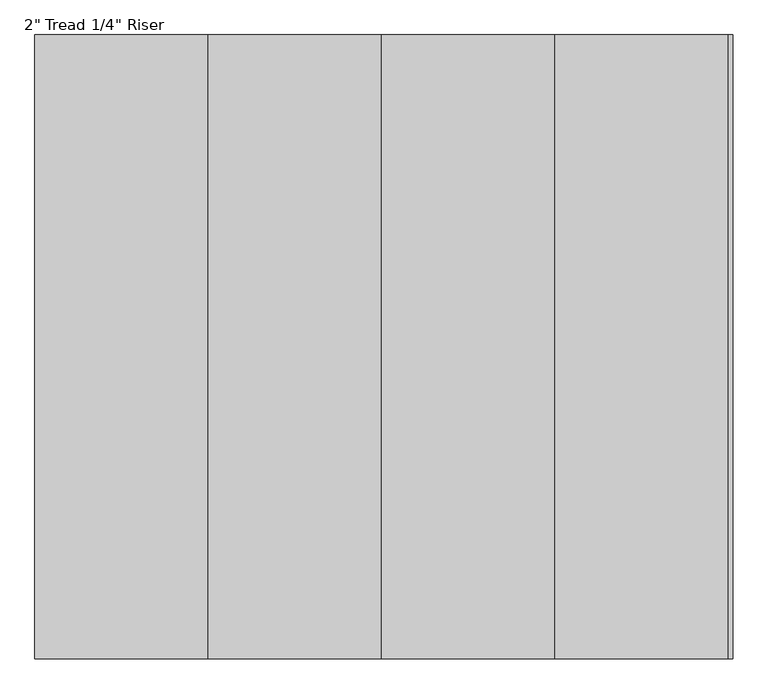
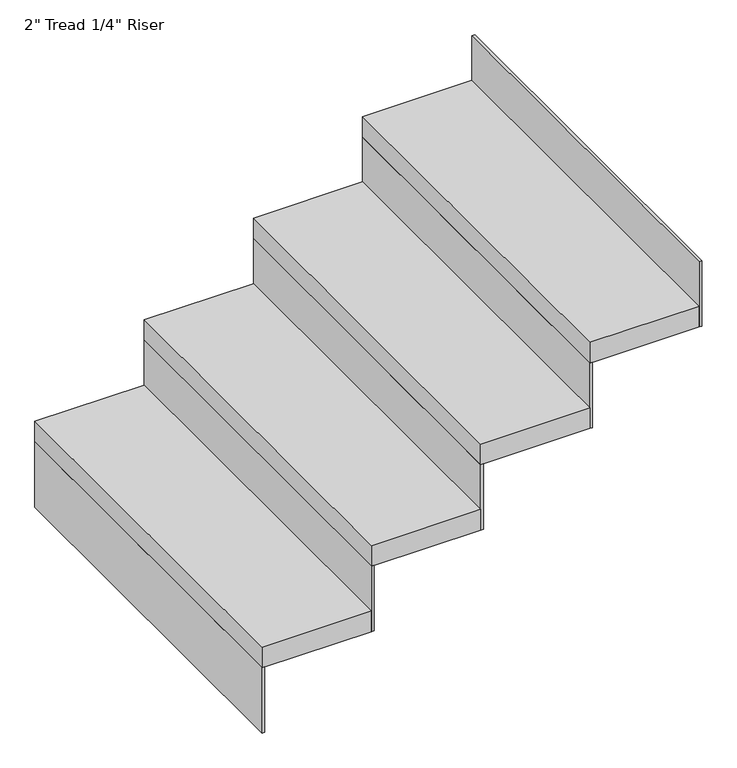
"""IFC4 building model written with IfcOpenShell, lengths in millimetres: stair flight geometry."""

from ifc_helpers import new_model, si_unit, frame, origin, place, context, project, spatial, polyline, outline, extrude, source, transform, mapped, element, save


def stair_flight_9e2481da(model_context):
    return source(origin(), model_context, "Body", "SweptSolid", [
        extrude(outline(polyline([(89606.4050425, -35593.481782), (89600.0550425, -35593.481782), (89600.0550425, -34679.081782), (89606.4050425, -34679.081782), (89606.4050425, -35593.481782)])), frame((0.0, 0.0, 2195.0947368), z_axis=(0.0, 0.0, 1.0), x_axis=(1.0, 0.0, 0.0)), (0.0, 0.0, 1.0), 160.4210526),
        extrude(outline(polyline([(89854.0550425, -34679.081782), (89854.0550425, -35593.481782), (89600.0550425, -35593.481782), (89600.0550425, -34679.081782), (89854.0550425, -34679.081782)])), frame((0.0, 0.0, 2355.5157895), z_axis=(0.0, 0.0, 1.0), x_axis=(1.0, 0.0, 0.0)), (0.0, 0.0, 1.0), 50.8),
        extrude(outline(polyline([(89860.4050425, -35593.481782), (89854.0550425, -35593.481782), (89854.0550425, -34679.081782), (89860.4050425, -34679.081782), (89860.4050425, -35593.481782)])), frame((0.0, 0.0, 2355.5157895), z_axis=(0.0, 0.0, 1.0), x_axis=(1.0, 0.0, 0.0)), (0.0, 0.0, 1.0), 160.4210526),
        extrude(outline(polyline([(90108.0550425, -34679.081782), (90108.0550425, -35593.481782), (89854.0550425, -35593.481782), (89854.0550425, -34679.081782), (90108.0550425, -34679.081782)])), frame((0.0, 0.0, 2515.9368421), z_axis=(0.0, 0.0, 1.0), x_axis=(1.0, 0.0, 0.0)), (0.0, 0.0, 1.0), 50.8),
        extrude(outline(polyline([(90114.4050425, -35593.481782), (90108.0550425, -35593.481782), (90108.0550425, -34679.081782), (90114.4050425, -34679.081782), (90114.4050425, -35593.481782)])), frame((0.0, 0.0, 2515.9368421), z_axis=(0.0, 0.0, 1.0), x_axis=(1.0, 0.0, 0.0)), (0.0, 0.0, 1.0), 160.4210526),
        extrude(outline(polyline([(90362.0550425, -34679.081782), (90362.0550425, -35593.481782), (90108.0550425, -35593.481782), (90108.0550425, -34679.081782), (90362.0550425, -34679.081782)])), frame((0.0, 0.0, 2676.3578947), z_axis=(0.0, 0.0, 1.0), x_axis=(1.0, 0.0, 0.0)), (0.0, 0.0, 1.0), 50.8),
        extrude(outline(polyline([(90368.4050425, -35593.481782), (90362.0550425, -35593.481782), (90362.0550425, -34679.081782), (90368.4050425, -34679.081782), (90368.4050425, -35593.481782)])), frame((0.0, 0.0, 2676.3578947), z_axis=(0.0, 0.0, 1.0), x_axis=(1.0, 0.0, 0.0)), (0.0, 0.0, 1.0), 160.4210526),
        extrude(outline(polyline([(90622.4050425, -35593.481782), (90616.0550425, -35593.481782), (90616.0550425, -34679.081782), (90622.4050425, -34679.081782), (90622.4050425, -35593.481782)])), frame((0.0, 0.0, 2836.7789474), z_axis=(0.0, 0.0, 1.0), x_axis=(1.0, 0.0, 0.0)), (0.0, 0.0, 1.0), 160.4210526),
        extrude(outline(polyline([(90616.0550425, -34679.081782), (90616.0550425, -35593.481782), (90362.0550425, -35593.481782), (90362.0550425, -34679.081782), (90616.0550425, -34679.081782)])), frame((0.0, 0.0, 2836.7789474), z_axis=(0.0, 0.0, 1.0), x_axis=(1.0, 0.0, 0.0)), (0.0, 0.0, 1.0), 50.8),
    ])


if __name__ == "__main__":
    model = new_model("IFC4")
    model_context = context("Model", 3, world=origin())
    ifc_project = project(units=[si_unit("LENGTHUNIT", "METRE", prefix="MILLI")], contexts=[model_context])
    site = spatial("IfcSite", under=ifc_project)
    building = spatial("IfcBuilding", under=site)
    placement = place(None, origin())
    stair_flight_shape = stair_flight_9e2481da(model_context)
    element("IfcStairFlight", 1, ObjectType="2\" Tread 1/4\" Riser", at=placement, inside=building, context=model_context, shape_type="MappedRepresentation", body=[
        mapped(stair_flight_shape, transform((0.0, 0.0, 0.0), x_axis=(1.0, 0.0, 0.0), y_axis=(0.0, 1.0, 0.0), z_axis=(0.0, 0.0, 1.0))),
    ])
    save(model, "model.ifc")
